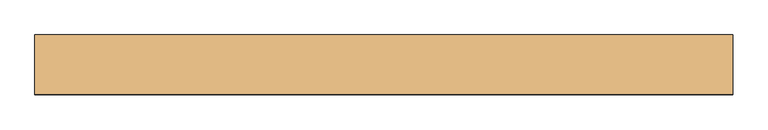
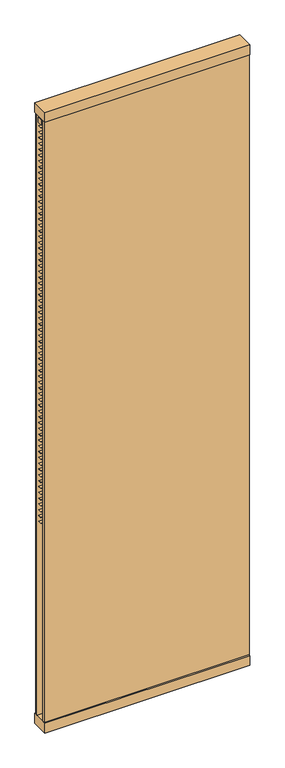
"""IFC4 building model written with IfcOpenShell, lengths in millimetres: door geometry, Mobiliário_Mobiliário de Escritório_Painel Persiana Junta Seca - DWVS e DWVD (Complementar)_Marelli : DWVD."""

from ifc_helpers import new_model, si_unit, frame, origin, origin_with_axes, place, context, project, spatial, polyline, outline, extrude, source, transform, mapped, element, save


def door_03dbf4ee(model_context):
    return source(origin(), model_context, "Body", "SweptSolid", [
        extrude(outline(polyline([(500.0, 42.5), (500.0, -42.5), (-500.0, -42.5), (-500.0, 42.5), (500.0, 42.5)])), origin_with_axes(), (0.0, 0.0, 1.0), 50.0),
        extrude(outline(polyline([(500.0, 13.6216022), (500.0, -11.3783978), (-500.0, -11.3783978), (-500.0, 13.6216022), (500.0, 13.6216022)])), frame((0.0, 0.0, 3117.0), z_axis=(0.0, 0.0, 1.0), x_axis=(1.0, 0.0, 0.0)), (0.0, 0.0, 1.0), 25.0),
        extrude(outline(polyline([(500.0, 42.5), (500.0, -42.5), (-500.0, -42.5), (-500.0, 42.5), (500.0, 42.5)])), frame((0.0, 0.0, 3150.0), z_axis=(0.0, 0.0, 1.0), x_axis=(1.0, 0.0, 0.0)), (0.0, 0.0, 1.0), 50.0),
        extrude(outline(polyline([(500.0, 35.1), (500.0, 25.1), (-500.0, 25.1), (-500.0, 35.1), (500.0, 35.1)])), frame((0.0, 0.0, 50.0), z_axis=(0.0, 0.0, 1.0), x_axis=(1.0, 0.0, 0.0)), (0.0, 0.0, 1.0), 3100.0),
        extrude(outline(polyline([(500.0, -35.1), (-500.0, -35.1), (-500.0, -25.1), (500.0, -25.1), (500.0, -35.1)])), frame((0.0, 0.0, 50.0), z_axis=(0.0, 0.0, 1.0), x_axis=(1.0, 0.0, 0.0)), (0.0, 0.0, 1.0), 3100.0),
        extrude(outline(polyline([(500.0, 8.0), (500.0, -8.0), (-500.0, -8.0), (-500.0, 8.0), (500.0, 8.0)])), frame((0.0, 0.0, 1061.2), z_axis=(0.0, 0.0, 1.0), x_axis=(1.0, 0.0, 0.0)), (0.0, 0.0, 1.0), 0.8),
        extrude(outline(polyline([(500.0, 8.0), (500.0, -8.0), (-500.0, -8.0), (-500.0, 8.0), (500.0, 8.0)])), frame((0.0, 0.0, 1091.2), z_axis=(0.0, 0.0, 1.0), x_axis=(1.0, 0.0, 0.0)), (0.0, 0.0, 1.0), 0.8),
        extrude(outline(polyline([(500.0, 8.0), (500.0, -8.0), (-500.0, -8.0), (-500.0, 8.0), (500.0, 8.0)])), frame((0.0, 0.0, 1121.2), z_axis=(0.0, 0.0, 1.0), x_axis=(1.0, 0.0, 0.0)), (0.0, 0.0, 1.0), 0.8),
        extrude(outline(polyline([(500.0, 8.0), (500.0, -8.0), (-500.0, -8.0), (-500.0, 8.0), (500.0, 8.0)])), frame((0.0, 0.0, 1151.2), z_axis=(0.0, 0.0, 1.0), x_axis=(1.0, 0.0, 0.0)), (0.0, 0.0, 1.0), 0.8),
        extrude(outline(polyline([(500.0, 8.0), (500.0, -8.0), (-500.0, -8.0), (-500.0, 8.0), (500.0, 8.0)])), frame((0.0, 0.0, 1181.2), z_axis=(0.0, 0.0, 1.0), x_axis=(1.0, 0.0, 0.0)), (0.0, 0.0, 1.0), 0.8),
        extrude(outline(polyline([(500.0, 8.0), (500.0, -8.0), (-500.0, -8.0), (-500.0, 8.0), (500.0, 8.0)])), frame((0.0, 0.0, 3101.2), z_axis=(0.0, 0.0, 1.0), x_axis=(1.0, 0.0, 0.0)), (0.0, 0.0, 1.0), 0.8),
        extrude(outline(polyline([(500.0, 8.0), (500.0, -8.0), (-500.0, -8.0), (-500.0, 8.0), (500.0, 8.0)])), frame((0.0, 0.0, 3071.2), z_axis=(0.0, 0.0, 1.0), x_axis=(1.0, 0.0, 0.0)), (0.0, 0.0, 1.0), 0.8),
        extrude(outline(polyline([(500.0, 8.0), (500.0, -8.0), (-500.0, -8.0), (-500.0, 8.0), (500.0, 8.0)])), frame((0.0, 0.0, 3041.2), z_axis=(0.0, 0.0, 1.0), x_axis=(1.0, 0.0, 0.0)), (0.0, 0.0, 1.0), 0.8),
        extrude(outline(polyline([(500.0, 8.0), (500.0, -8.0), (-500.0, -8.0), (-500.0, 8.0), (500.0, 8.0)])), frame((0.0, 0.0, 3011.2), z_axis=(0.0, 0.0, 1.0), x_axis=(1.0, 0.0, 0.0)), (0.0, 0.0, 1.0), 0.8),
        extrude(outline(polyline([(500.0, 8.0), (500.0, -8.0), (-500.0, -8.0), (-500.0, 8.0), (500.0, 8.0)])), frame((0.0, 0.0, 2981.2), z_axis=(0.0, 0.0, 1.0), x_axis=(1.0, 0.0, 0.0)), (0.0, 0.0, 1.0), 0.8),
        extrude(outline(polyline([(500.0, 8.0), (500.0, -8.0), (-500.0, -8.0), (-500.0, 8.0), (500.0, 8.0)])), frame((0.0, 0.0, 2951.2), z_axis=(0.0, 0.0, 1.0), x_axis=(1.0, 0.0, 0.0)), (0.0, 0.0, 1.0), 0.8),
        extrude(outline(polyline([(500.0, 8.0), (500.0, -8.0), (-500.0, -8.0), (-500.0, 8.0), (500.0, 8.0)])), frame((0.0, 0.0, 2921.2), z_axis=(0.0, 0.0, 1.0), x_axis=(1.0, 0.0, 0.0)), (0.0, 0.0, 1.0), 0.8),
        extrude(outline(polyline([(500.0, 8.0), (500.0, -8.0), (-500.0, -8.0), (-500.0, 8.0), (500.0, 8.0)])), frame((0.0, 0.0, 2891.2), z_axis=(0.0, 0.0, 1.0), x_axis=(1.0, 0.0, 0.0)), (0.0, 0.0, 1.0), 0.8),
        extrude(outline(polyline([(500.0, 8.0), (500.0, -8.0), (-500.0, -8.0), (-500.0, 8.0), (500.0, 8.0)])), frame((0.0, 0.0, 2861.2), z_axis=(0.0, 0.0, 1.0), x_axis=(1.0, 0.0, 0.0)), (0.0, 0.0, 1.0), 0.8),
        extrude(outline(polyline([(500.0, 8.0), (500.0, -8.0), (-500.0, -8.0), (-500.0, 8.0), (500.0, 8.0)])), frame((0.0, 0.0, 2831.2), z_axis=(0.0, 0.0, 1.0), x_axis=(1.0, 0.0, 0.0)), (0.0, 0.0, 1.0), 0.8),
        extrude(outline(polyline([(500.0, 8.0), (500.0, -8.0), (-500.0, -8.0), (-500.0, 8.0), (500.0, 8.0)])), frame((0.0, 0.0, 2801.2), z_axis=(0.0, 0.0, 1.0), x_axis=(1.0, 0.0, 0.0)), (0.0, 0.0, 1.0), 0.8),
        extrude(outline(polyline([(500.0, 8.0), (500.0, -8.0), (-500.0, -8.0), (-500.0, 8.0), (500.0, 8.0)])), frame((0.0, 0.0, 2771.2), z_axis=(0.0, 0.0, 1.0), x_axis=(1.0, 0.0, 0.0)), (0.0, 0.0, 1.0), 0.8),
        extrude(outline(polyline([(500.0, 8.0), (500.0, -8.0), (-500.0, -8.0), (-500.0, 8.0), (500.0, 8.0)])), frame((0.0, 0.0, 2741.2), z_axis=(0.0, 0.0, 1.0), x_axis=(1.0, 0.0, 0.0)), (0.0, 0.0, 1.0), 0.8),
        extrude(outline(polyline([(500.0, 8.0), (500.0, -8.0), (-500.0, -8.0), (-500.0, 8.0), (500.0, 8.0)])), frame((0.0, 0.0, 2711.2), z_axis=(0.0, 0.0, 1.0), x_axis=(1.0, 0.0, 0.0)), (0.0, 0.0, 1.0), 0.8),
        extrude(outline(polyline([(500.0, 8.0), (500.0, -8.0), (-500.0, -8.0), (-500.0, 8.0), (500.0, 8.0)])), frame((0.0, 0.0, 2681.2), z_axis=(0.0, 0.0, 1.0), x_axis=(1.0, 0.0, 0.0)), (0.0, 0.0, 1.0), 0.8),
        extrude(outline(polyline([(500.0, 8.0), (500.0, -8.0), (-500.0, -8.0), (-500.0, 8.0), (500.0, 8.0)])), frame((0.0, 0.0, 2651.2), z_axis=(0.0, 0.0, 1.0), x_axis=(1.0, 0.0, 0.0)), (0.0, 0.0, 1.0), 0.8),
        extrude(outline(polyline([(500.0, 8.0), (500.0, -8.0), (-500.0, -8.0), (-500.0, 8.0), (500.0, 8.0)])), frame((0.0, 0.0, 2621.2), z_axis=(0.0, 0.0, 1.0), x_axis=(1.0, 0.0, 0.0)), (0.0, 0.0, 1.0), 0.8),
        extrude(outline(polyline([(500.0, 8.0), (500.0, -8.0), (-500.0, -8.0), (-500.0, 8.0), (500.0, 8.0)])), frame((0.0, 0.0, 2591.2), z_axis=(0.0, 0.0, 1.0), x_axis=(1.0, 0.0, 0.0)), (0.0, 0.0, 1.0), 0.8),
        extrude(outline(polyline([(500.0, 8.0), (500.0, -8.0), (-500.0, -8.0), (-500.0, 8.0), (500.0, 8.0)])), frame((0.0, 0.0, 2561.2), z_axis=(0.0, 0.0, 1.0), x_axis=(1.0, 0.0, 0.0)), (0.0, 0.0, 1.0), 0.8),
        extrude(outline(polyline([(500.0, 8.0), (500.0, -8.0), (-500.0, -8.0), (-500.0, 8.0), (500.0, 8.0)])), frame((0.0, 0.0, 2531.2), z_axis=(0.0, 0.0, 1.0), x_axis=(1.0, 0.0, 0.0)), (0.0, 0.0, 1.0), 0.8),
        extrude(outline(polyline([(500.0, 8.0), (500.0, -8.0), (-500.0, -8.0), (-500.0, 8.0), (500.0, 8.0)])), frame((0.0, 0.0, 2501.2), z_axis=(0.0, 0.0, 1.0), x_axis=(1.0, 0.0, 0.0)), (0.0, 0.0, 1.0), 0.8),
        extrude(outline(polyline([(500.0, 8.0), (500.0, -8.0), (-500.0, -8.0), (-500.0, 8.0), (500.0, 8.0)])), frame((0.0, 0.0, 2471.2), z_axis=(0.0, 0.0, 1.0), x_axis=(1.0, 0.0, 0.0)), (0.0, 0.0, 1.0), 0.8),
        extrude(outline(polyline([(500.0, 8.0), (500.0, -8.0), (-500.0, -8.0), (-500.0, 8.0), (500.0, 8.0)])), frame((0.0, 0.0, 2441.2), z_axis=(0.0, 0.0, 1.0), x_axis=(1.0, 0.0, 0.0)), (0.0, 0.0, 1.0), 0.8),
        extrude(outline(polyline([(500.0, 8.0), (500.0, -8.0), (-500.0, -8.0), (-500.0, 8.0), (500.0, 8.0)])), frame((0.0, 0.0, 2411.2), z_axis=(0.0, 0.0, 1.0), x_axis=(1.0, 0.0, 0.0)), (0.0, 0.0, 1.0), 0.8),
        extrude(outline(polyline([(500.0, 8.0), (500.0, -8.0), (-500.0, -8.0), (-500.0, 8.0), (500.0, 8.0)])), frame((0.0, 0.0, 2381.2), z_axis=(0.0, 0.0, 1.0), x_axis=(1.0, 0.0, 0.0)), (0.0, 0.0, 1.0), 0.8),
        extrude(outline(polyline([(500.0, 8.0), (500.0, -8.0), (-500.0, -8.0), (-500.0, 8.0), (500.0, 8.0)])), frame((0.0, 0.0, 2351.2), z_axis=(0.0, 0.0, 1.0), x_axis=(1.0, 0.0, 0.0)), (0.0, 0.0, 1.0), 0.8),
        extrude(outline(polyline([(500.0, 8.0), (500.0, -8.0), (-500.0, -8.0), (-500.0, 8.0), (500.0, 8.0)])), frame((0.0, 0.0, 2321.2), z_axis=(0.0, 0.0, 1.0), x_axis=(1.0, 0.0, 0.0)), (0.0, 0.0, 1.0), 0.8),
        extrude(outline(polyline([(500.0, 8.0), (500.0, -8.0), (-500.0, -8.0), (-500.0, 8.0), (500.0, 8.0)])), frame((0.0, 0.0, 2291.2), z_axis=(0.0, 0.0, 1.0), x_axis=(1.0, 0.0, 0.0)), (0.0, 0.0, 1.0), 0.8),
        extrude(outline(polyline([(500.0, 8.0), (500.0, -8.0), (-500.0, -8.0), (-500.0, 8.0), (500.0, 8.0)])), frame((0.0, 0.0, 2261.2), z_axis=(0.0, 0.0, 1.0), x_axis=(1.0, 0.0, 0.0)), (0.0, 0.0, 1.0), 0.8),
        extrude(outline(polyline([(500.0, 8.0), (500.0, -8.0), (-500.0, -8.0), (-500.0, 8.0), (500.0, 8.0)])), frame((0.0, 0.0, 2231.2), z_axis=(0.0, 0.0, 1.0), x_axis=(1.0, 0.0, 0.0)), (0.0, 0.0, 1.0), 0.8),
        extrude(outline(polyline([(500.0, 8.0), (500.0, -8.0), (-500.0, -8.0), (-500.0, 8.0), (500.0, 8.0)])), frame((0.0, 0.0, 2201.2), z_axis=(0.0, 0.0, 1.0), x_axis=(1.0, 0.0, 0.0)), (0.0, 0.0, 1.0), 0.8),
        extrude(outline(polyline([(500.0, 8.0), (500.0, -8.0), (-500.0, -8.0), (-500.0, 8.0), (500.0, 8.0)])), frame((0.0, 0.0, 2171.2), z_axis=(0.0, 0.0, 1.0), x_axis=(1.0, 0.0, 0.0)), (0.0, 0.0, 1.0), 0.8),
        extrude(outline(polyline([(500.0, 8.0), (500.0, -8.0), (-500.0, -8.0), (-500.0, 8.0), (500.0, 8.0)])), frame((0.0, 0.0, 2141.2), z_axis=(0.0, 0.0, 1.0), x_axis=(1.0, 0.0, 0.0)), (0.0, 0.0, 1.0), 0.8),
        extrude(outline(polyline([(500.0, 8.0), (500.0, -8.0), (-500.0, -8.0), (-500.0, 8.0), (500.0, 8.0)])), frame((0.0, 0.0, 2111.2), z_axis=(0.0, 0.0, 1.0), x_axis=(1.0, 0.0, 0.0)), (0.0, 0.0, 1.0), 0.8),
        extrude(outline(polyline([(500.0, 8.0), (500.0, -8.0), (-500.0, -8.0), (-500.0, 8.0), (500.0, 8.0)])), frame((0.0, 0.0, 2081.2), z_axis=(0.0, 0.0, 1.0), x_axis=(1.0, 0.0, 0.0)), (0.0, 0.0, 1.0), 0.8),
        extrude(outline(polyline([(500.0, 8.0), (500.0, -8.0), (-500.0, -8.0), (-500.0, 8.0), (500.0, 8.0)])), frame((0.0, 0.0, 2051.2), z_axis=(0.0, 0.0, 1.0), x_axis=(1.0, 0.0, 0.0)), (0.0, 0.0, 1.0), 0.8),
        extrude(outline(polyline([(500.0, 8.0), (500.0, -8.0), (-500.0, -8.0), (-500.0, 8.0), (500.0, 8.0)])), frame((0.0, 0.0, 2021.2), z_axis=(0.0, 0.0, 1.0), x_axis=(1.0, 0.0, 0.0)), (0.0, 0.0, 1.0), 0.8),
        extrude(outline(polyline([(500.0, 8.0), (500.0, -8.0), (-500.0, -8.0), (-500.0, 8.0), (500.0, 8.0)])), frame((0.0, 0.0, 1991.2), z_axis=(0.0, 0.0, 1.0), x_axis=(1.0, 0.0, 0.0)), (0.0, 0.0, 1.0), 0.8),
        extrude(outline(polyline([(500.0, 8.0), (500.0, -8.0), (-500.0, -8.0), (-500.0, 8.0), (500.0, 8.0)])), frame((0.0, 0.0, 1961.2), z_axis=(0.0, 0.0, 1.0), x_axis=(1.0, 0.0, 0.0)), (0.0, 0.0, 1.0), 0.8),
        extrude(outline(polyline([(500.0, 8.0), (500.0, -8.0), (-500.0, -8.0), (-500.0, 8.0), (500.0, 8.0)])), frame((0.0, 0.0, 1931.2), z_axis=(0.0, 0.0, 1.0), x_axis=(1.0, 0.0, 0.0)), (0.0, 0.0, 1.0), 0.8),
        extrude(outline(polyline([(500.0, 8.0), (500.0, -8.0), (-500.0, -8.0), (-500.0, 8.0), (500.0, 8.0)])), frame((0.0, 0.0, 1901.2), z_axis=(0.0, 0.0, 1.0), x_axis=(1.0, 0.0, 0.0)), (0.0, 0.0, 1.0), 0.8),
        extrude(outline(polyline([(500.0, 8.0), (500.0, -8.0), (-500.0, -8.0), (-500.0, 8.0), (500.0, 8.0)])), frame((0.0, 0.0, 1871.2), z_axis=(0.0, 0.0, 1.0), x_axis=(1.0, 0.0, 0.0)), (0.0, 0.0, 1.0), 0.8),
        extrude(outline(polyline([(500.0, 8.0), (500.0, -8.0), (-500.0, -8.0), (-500.0, 8.0), (500.0, 8.0)])), frame((0.0, 0.0, 1841.2), z_axis=(0.0, 0.0, 1.0), x_axis=(1.0, 0.0, 0.0)), (0.0, 0.0, 1.0), 0.8),
        extrude(outline(polyline([(500.0, 8.0), (500.0, -8.0), (-500.0, -8.0), (-500.0, 8.0), (500.0, 8.0)])), frame((0.0, 0.0, 1811.2), z_axis=(0.0, 0.0, 1.0), x_axis=(1.0, 0.0, 0.0)), (0.0, 0.0, 1.0), 0.8),
        extrude(outline(polyline([(500.0, 8.0), (500.0, -8.0), (-500.0, -8.0), (-500.0, 8.0), (500.0, 8.0)])), frame((0.0, 0.0, 1511.2), z_axis=(0.0, 0.0, 1.0), x_axis=(1.0, 0.0, 0.0)), (0.0, 0.0, 1.0), 0.8),
        extrude(outline(polyline([(500.0, 8.0), (500.0, -8.0), (-500.0, -8.0), (-500.0, 8.0), (500.0, 8.0)])), frame((0.0, 0.0, 1541.2), z_axis=(0.0, 0.0, 1.0), x_axis=(1.0, 0.0, 0.0)), (0.0, 0.0, 1.0), 0.8),
        extrude(outline(polyline([(500.0, 8.0), (500.0, -8.0), (-500.0, -8.0), (-500.0, 8.0), (500.0, 8.0)])), frame((0.0, 0.0, 1571.2), z_axis=(0.0, 0.0, 1.0), x_axis=(1.0, 0.0, 0.0)), (0.0, 0.0, 1.0), 0.8),
        extrude(outline(polyline([(500.0, 8.0), (500.0, -8.0), (-500.0, -8.0), (-500.0, 8.0), (500.0, 8.0)])), frame((0.0, 0.0, 1601.2), z_axis=(0.0, 0.0, 1.0), x_axis=(1.0, 0.0, 0.0)), (0.0, 0.0, 1.0), 0.8),
        extrude(outline(polyline([(500.0, 8.0), (500.0, -8.0), (-500.0, -8.0), (-500.0, 8.0), (500.0, 8.0)])), frame((0.0, 0.0, 1631.2), z_axis=(0.0, 0.0, 1.0), x_axis=(1.0, 0.0, 0.0)), (0.0, 0.0, 1.0), 0.8),
        extrude(outline(polyline([(500.0, 8.0), (500.0, -8.0), (-500.0, -8.0), (-500.0, 8.0), (500.0, 8.0)])), frame((0.0, 0.0, 1661.2), z_axis=(0.0, 0.0, 1.0), x_axis=(1.0, 0.0, 0.0)), (0.0, 0.0, 1.0), 0.8),
        extrude(outline(polyline([(500.0, 8.0), (500.0, -8.0), (-500.0, -8.0), (-500.0, 8.0), (500.0, 8.0)])), frame((0.0, 0.0, 1691.2), z_axis=(0.0, 0.0, 1.0), x_axis=(1.0, 0.0, 0.0)), (0.0, 0.0, 1.0), 0.8),
        extrude(outline(polyline([(500.0, 8.0), (500.0, -8.0), (-500.0, -8.0), (-500.0, 8.0), (500.0, 8.0)])), frame((0.0, 0.0, 1721.2), z_axis=(0.0, 0.0, 1.0), x_axis=(1.0, 0.0, 0.0)), (0.0, 0.0, 1.0), 0.8),
        extrude(outline(polyline([(500.0, 8.0), (500.0, -8.0), (-500.0, -8.0), (-500.0, 8.0), (500.0, 8.0)])), frame((0.0, 0.0, 1751.2), z_axis=(0.0, 0.0, 1.0), x_axis=(1.0, 0.0, 0.0)), (0.0, 0.0, 1.0), 0.8),
        extrude(outline(polyline([(500.0, 8.0), (500.0, -8.0), (-500.0, -8.0), (-500.0, 8.0), (500.0, 8.0)])), frame((0.0, 0.0, 1781.2), z_axis=(0.0, 0.0, 1.0), x_axis=(1.0, 0.0, 0.0)), (0.0, 0.0, 1.0), 0.8),
        extrude(outline(polyline([(500.0, 8.0), (500.0, -8.0), (-500.0, -8.0), (-500.0, 8.0), (500.0, 8.0)])), frame((0.0, 0.0, 1211.2), z_axis=(0.0, 0.0, 1.0), x_axis=(1.0, 0.0, 0.0)), (0.0, 0.0, 1.0), 0.8),
        extrude(outline(polyline([(500.0, 8.0), (500.0, -8.0), (-500.0, -8.0), (-500.0, 8.0), (500.0, 8.0)])), frame((0.0, 0.0, 1481.2), z_axis=(0.0, 0.0, 1.0), x_axis=(1.0, 0.0, 0.0)), (0.0, 0.0, 1.0), 0.8),
        extrude(outline(polyline([(500.0, 8.0), (500.0, -8.0), (-500.0, -8.0), (-500.0, 8.0), (500.0, 8.0)])), frame((0.0, 0.0, 1451.2), z_axis=(0.0, 0.0, 1.0), x_axis=(1.0, 0.0, 0.0)), (0.0, 0.0, 1.0), 0.8),
        extrude(outline(polyline([(500.0, 8.0), (500.0, -8.0), (-500.0, -8.0), (-500.0, 8.0), (500.0, 8.0)])), frame((0.0, 0.0, 1421.2), z_axis=(0.0, 0.0, 1.0), x_axis=(1.0, 0.0, 0.0)), (0.0, 0.0, 1.0), 0.8),
        extrude(outline(polyline([(500.0, 8.0), (500.0, -8.0), (-500.0, -8.0), (-500.0, 8.0), (500.0, 8.0)])), frame((0.0, 0.0, 1391.2), z_axis=(0.0, 0.0, 1.0), x_axis=(1.0, 0.0, 0.0)), (0.0, 0.0, 1.0), 0.8),
        extrude(outline(polyline([(500.0, 8.0), (500.0, -8.0), (-500.0, -8.0), (-500.0, 8.0), (500.0, 8.0)])), frame((0.0, 0.0, 1361.2), z_axis=(0.0, 0.0, 1.0), x_axis=(1.0, 0.0, 0.0)), (0.0, 0.0, 1.0), 0.8),
        extrude(outline(polyline([(500.0, 8.0), (500.0, -8.0), (-500.0, -8.0), (-500.0, 8.0), (500.0, 8.0)])), frame((0.0, 0.0, 1331.2), z_axis=(0.0, 0.0, 1.0), x_axis=(1.0, 0.0, 0.0)), (0.0, 0.0, 1.0), 0.8),
        extrude(outline(polyline([(500.0, 8.0), (500.0, -8.0), (-500.0, -8.0), (-500.0, 8.0), (500.0, 8.0)])), frame((0.0, 0.0, 1301.2), z_axis=(0.0, 0.0, 1.0), x_axis=(1.0, 0.0, 0.0)), (0.0, 0.0, 1.0), 0.8),
        extrude(outline(polyline([(500.0, 8.0), (500.0, -8.0), (-500.0, -8.0), (-500.0, 8.0), (500.0, 8.0)])), frame((0.0, 0.0, 1271.2), z_axis=(0.0, 0.0, 1.0), x_axis=(1.0, 0.0, 0.0)), (0.0, 0.0, 1.0), 0.8),
        extrude(outline(polyline([(500.0, 8.0), (500.0, -8.0), (-500.0, -8.0), (-500.0, 8.0), (500.0, 8.0)])), frame((0.0, 0.0, 1241.2), z_axis=(0.0, 0.0, 1.0), x_axis=(1.0, 0.0, 0.0)), (0.0, 0.0, 1.0), 0.8),
    ])


if __name__ == "__main__":
    model = new_model("IFC4")
    model_context = context("Model", 3, world=origin())
    ifc_project = project(units=[si_unit("LENGTHUNIT", "METRE", prefix="MILLI")], contexts=[model_context])
    site = spatial("IfcSite", under=ifc_project)
    building = spatial("IfcBuilding", under=site)
    placement = place(None, origin())
    door_shape = door_03dbf4ee(model_context)
    element("IfcDoor", 1, ObjectType="Mobiliário_Mobiliário de Escritório_Painel Persiana Junta Seca - DWVS e DWVD (Complementar)_Marelli : DWVD", at=placement, inside=building, context=model_context, shape_type="MappedRepresentation", body=[
        mapped(door_shape, transform((0.0, 0.0, 0.0), x_axis=(1.0, 0.0, 0.0), y_axis=(0.0, 1.0, 0.0), z_axis=(0.0, 0.0, 1.0))),
    ])
    save(model, "model.ifc")
